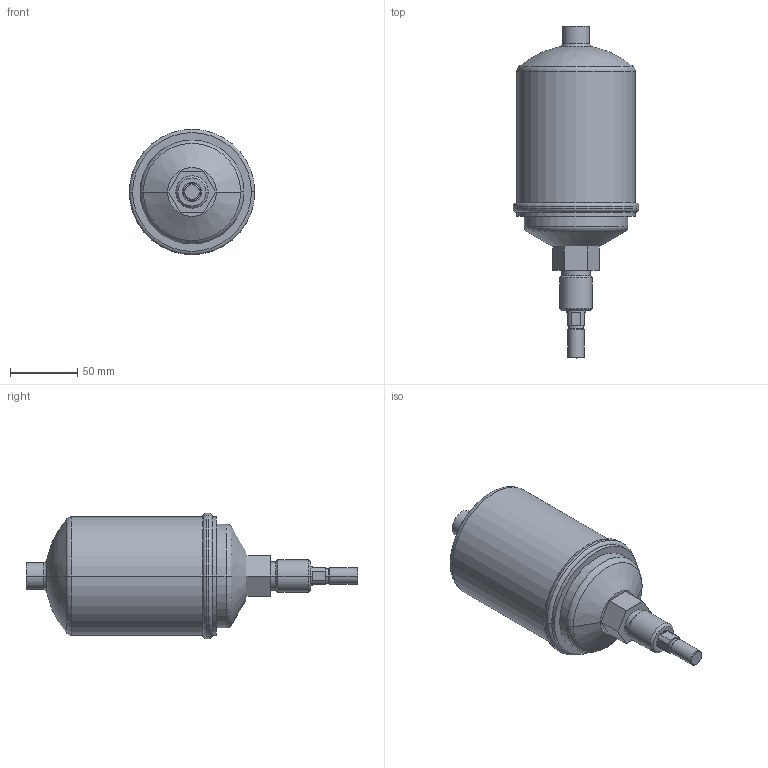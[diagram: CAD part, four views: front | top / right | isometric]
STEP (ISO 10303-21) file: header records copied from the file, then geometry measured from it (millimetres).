
FILE_DESCRIPTION((''),'2;1');
FILE_NAME('1022200000_ASM','2023-07-24T10:42:18',('THD3HC'),(''),'CREO PARAMETRIC BY PTC INC, 2020044','CREO PARAMETRIC BY PTC INC, 2020044','');
FILE_SCHEMA(('CONFIG_CONTROL_DESIGN','SHAPE_APPEARANCE_LAYERS_GROUPS'));
Length unit declared in the file: millimetre
Products named in the file (3): 1022200000-A; 1022200000-B; 1022200000_ASM
Assembly tree (2 placements, depth 2):
  1022200000_ASM
    1022200000-A
    1022200000-B
Bounding box: 93 x 246 x 93 mm (x, y, z)
Volume: 395191.1 mm3; surface area: 118720.5 mm2
Topology: 2 solids, 2 shells, 78 faces, 164 edges, 98 vertices
Faces by surface type: cylinder 28, plane 26, cone 12, torus 10, bspline 2
Entity records: 2961 total; most frequent: DIRECTION 416, CARTESIAN_POINT 399, ORIENTED_EDGE 328, PRESENTATION_STYLE_ASSIGNMENT 183, AXIS2_PLACEMENT_3D 171, STYLED_ITEM 166, CURVE_STYLE 164, EDGE_CURVE 164
